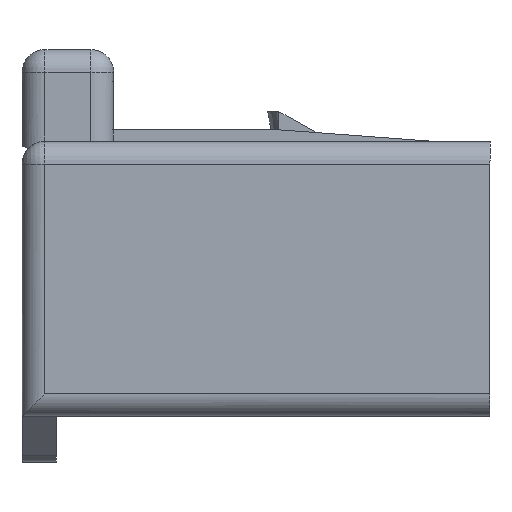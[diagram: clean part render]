
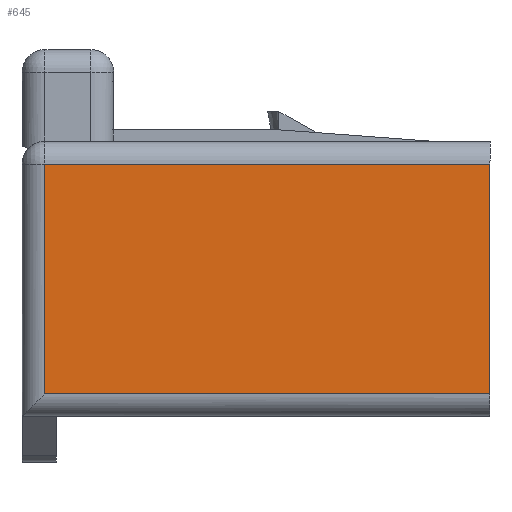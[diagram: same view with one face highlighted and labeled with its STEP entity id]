
A CAD part, front view. The second image highlights one B-rep face of the part: STEP entity #645.
In plain terms, the highlighted planar face has unit normal (0, -1, 0).
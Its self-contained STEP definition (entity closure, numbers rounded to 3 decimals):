
#609=AXIS2_PLACEMENT_3D('Plane Axis2P3D',#606,#607,#608) ;
#606=CARTESIAN_POINT('Axis2P3D Location',(0.,-2.55,2.8)) ;
#611=CARTESIAN_POINT('Line Origine',(0.,-2.55,-3.2)) ;
#615=CARTESIAN_POINT('Vertex',(0.,-2.55,1.8)) ;
#617=CARTESIAN_POINT('Vertex',(0.,-2.55,-8.2)) ;
#620=CARTESIAN_POINT('Line Origine',(-9.7,-2.55,1.8)) ;
#624=CARTESIAN_POINT('Vertex',(-19.4,-2.55,1.8)) ;
#627=CARTESIAN_POINT('Line Origine',(-19.4,-2.55,-3.2)) ;
#631=CARTESIAN_POINT('Vertex',(-19.4,-2.55,-8.2)) ;
#634=CARTESIAN_POINT('Line Origine',(-9.7,-2.55,-8.2)) ;
#607=DIRECTION('Axis2P3D Direction',(0.,-1.,0.)) ;
#608=DIRECTION('Axis2P3D XDirection',(0.,0.,-1.)) ;
#612=DIRECTION('Vector Direction',(0.,0.,-1.)) ;
#621=DIRECTION('Vector Direction',(1.,0.,0.)) ;
#628=DIRECTION('Vector Direction',(0.,0.,-1.)) ;
#635=DIRECTION('Vector Direction',(1.,0.,0.)) ;
#613=VECTOR('Line Direction',#612,1.) ;
#622=VECTOR('Line Direction',#621,1.) ;
#629=VECTOR('Line Direction',#628,1.) ;
#636=VECTOR('Line Direction',#635,1.) ;
#640=ORIENTED_EDGE('',*,*,#619,.F.) ;
#641=ORIENTED_EDGE('',*,*,#626,.F.) ;
#642=ORIENTED_EDGE('',*,*,#633,.T.) ;
#643=ORIENTED_EDGE('',*,*,#638,.T.) ;
#645=ADVANCED_FACE('\X2\FF8AFF9FFF70FF82\X0\ \X2\FF8EFF9EFF83FF9EFF68FF70\X0\',(#644),#610,.T.) ;
#619=EDGE_CURVE('',#616,#618,#614,.T.) ;
#626=EDGE_CURVE('',#625,#616,#623,.T.) ;
#633=EDGE_CURVE('',#625,#632,#630,.T.) ;
#638=EDGE_CURVE('',#632,#618,#637,.T.) ;
#639=EDGE_LOOP('',(#640,#641,#642,#643)) ;
#644=FACE_OUTER_BOUND('',#639,.T.) ;
#614=LINE('Line',#611,#613) ;
#623=LINE('Line',#620,#622) ;
#630=LINE('Line',#627,#629) ;
#637=LINE('Line',#634,#636) ;
#610=PLANE('',#609) ;
#616=VERTEX_POINT('',#615) ;
#618=VERTEX_POINT('',#617) ;
#625=VERTEX_POINT('',#624) ;
#632=VERTEX_POINT('',#631) ;
